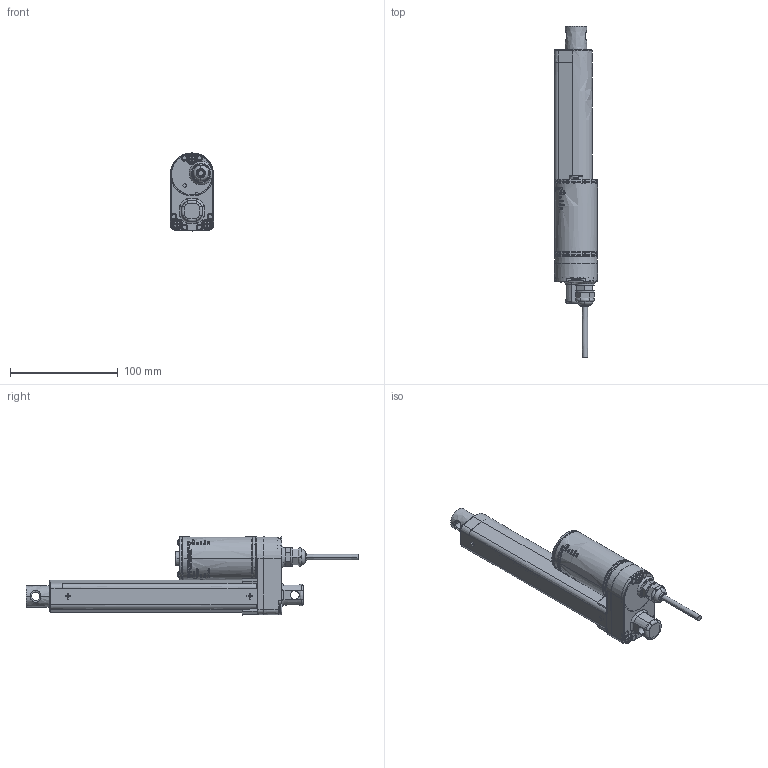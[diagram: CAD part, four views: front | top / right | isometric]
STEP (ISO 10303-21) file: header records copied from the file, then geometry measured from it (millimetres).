
FILE_DESCRIPTION((''),'2;1');
FILE_NAME('ASM0001_ASM','2014-06-03T',('tony'),(''),'PRO/ENGINEER BY PARAMETRIC TECHNOLOGY CORPORATION, 2008090','PRO/ENGINEER BY PARAMETRIC TECHNOLOGY CORPORATION, 2008090','');
FILE_SCHEMA(('CONFIG_CONTROL_DESIGN'));
Products named in the file (7): 1; PRT0010; ASM0003_ASM_ASM; ASM0002_ASM_ASM; ASM0001_ASM_ASM; 2_ASM; ASM0001_ASM
Assembly tree (6 placements, depth 6):
  ASM0001_ASM
    1
    2_ASM
      ASM0001_ASM_ASM
        ASM0002_ASM_ASM
          ASM0003_ASM_ASM
            PRT0010
Bounding box: 40 x 308.8 x 72.61 mm (x, y, z)
Surface area: 148209.4 mm2 (no closed solid volume)
Topology: 0 solids, 0 shells, 1109 faces, 7012 edges, 6900 vertices
Faces by surface type: bspline 997, torus 89, sphere 23
Entity records: 111154 total; most frequent: CARTESIAN_POINT 54218, DIRECTION 8512, TRIMMED_CURVE 6970, DEFINITIONAL_REPRESENTATION 6814, PCURVE 6814, COMPOSITE_CURVE_SEGMENT 6814, VECTOR 5686, LINE 5686
